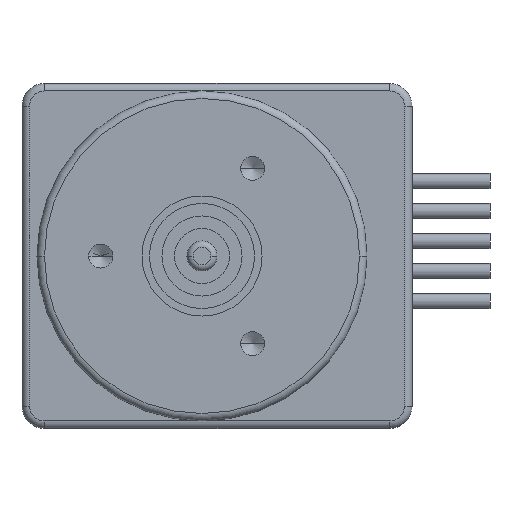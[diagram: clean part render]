
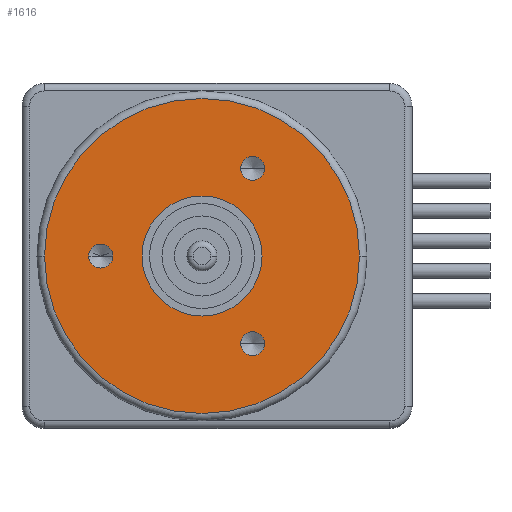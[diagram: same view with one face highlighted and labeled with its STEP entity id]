
A CAD part, left-side view. The second image highlights one B-rep face of the part: STEP entity #1616.
In plain terms, the highlighted planar face has unit normal (-1, 0, 0).
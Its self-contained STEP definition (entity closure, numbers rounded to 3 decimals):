
#87=CARTESIAN_POINT('',(-3.6,-3.375,5.846));
#88=DIRECTION('',(-1.,0.,0.));
#89=DIRECTION('',(0.,1.,0.));
#90=AXIS2_PLACEMENT_3D('',#87,#88,#89);
#92=CARTESIAN_POINT('',(-3.6,-3.375,5.846));
#93=DIRECTION('',(-1.,0.,0.));
#94=DIRECTION('',(0.,-1.,0.));
#95=AXIS2_PLACEMENT_3D('',#92,#93,#94);
#97=CARTESIAN_POINT('',(-3.6,-3.375,-5.846));
#98=DIRECTION('',(-1.,0.,0.));
#99=DIRECTION('',(0.,1.,0.));
#100=AXIS2_PLACEMENT_3D('',#97,#98,#99);
#102=CARTESIAN_POINT('',(-3.6,-3.375,-5.846));
#103=DIRECTION('',(-1.,0.,0.));
#104=DIRECTION('',(0.,-1.,0.));
#105=AXIS2_PLACEMENT_3D('',#102,#103,#104);
#107=CARTESIAN_POINT('',(-3.6,6.75,0.));
#108=DIRECTION('',(-1.,0.,0.));
#109=DIRECTION('',(0.,1.,0.));
#110=AXIS2_PLACEMENT_3D('',#107,#108,#109);
#112=CARTESIAN_POINT('',(-3.6,6.75,0.));
#113=DIRECTION('',(-1.,0.,0.));
#114=DIRECTION('',(0.,-1.,0.));
#115=AXIS2_PLACEMENT_3D('',#112,#113,#114);
#117=CARTESIAN_POINT('',(-3.6,0.,0.));
#118=DIRECTION('',(-1.,0.,0.));
#119=DIRECTION('',(0.,1.,0.));
#120=AXIS2_PLACEMENT_3D('',#117,#118,#119);
#122=CARTESIAN_POINT('',(-3.6,0.,0.));
#123=DIRECTION('',(-1.,0.,0.));
#124=DIRECTION('',(0.,-1.,0.));
#125=AXIS2_PLACEMENT_3D('',#122,#123,#124);
#127=CARTESIAN_POINT('',(-3.6,0.,0.));
#128=DIRECTION('',(1.,0.,0.));
#129=DIRECTION('',(0.,1.,0.));
#130=AXIS2_PLACEMENT_3D('',#127,#128,#129);
#140=CARTESIAN_POINT('',(-3.6,0.,0.));
#141=DIRECTION('',(-1.,0.,0.));
#142=DIRECTION('',(0.,1.,0.));
#143=AXIS2_PLACEMENT_3D('',#140,#141,#142);
#1223=CARTESIAN_POINT('',(-3.6,4.,0.));
#1225=VERTEX_POINT('',#1223);
#1239=CARTESIAN_POINT('',(-3.6,-4.,0.));
#1241=VERTEX_POINT('',#1239);
#1273=CARTESIAN_POINT('',(-3.6,-2.575,5.846));
#1274=CARTESIAN_POINT('',(-3.6,-4.175,5.846));
#1275=VERTEX_POINT('',#1273);
#1276=VERTEX_POINT('',#1274);
#1283=CARTESIAN_POINT('',(-3.6,-2.575,-5.846));
#1284=CARTESIAN_POINT('',(-3.6,-4.175,-5.846));
#1285=VERTEX_POINT('',#1283);
#1286=VERTEX_POINT('',#1284);
#1293=CARTESIAN_POINT('',(-3.6,7.55,0.));
#1294=CARTESIAN_POINT('',(-3.6,5.95,0.));
#1295=VERTEX_POINT('',#1293);
#1296=VERTEX_POINT('',#1294);
#1297=CARTESIAN_POINT('',(-3.6,10.5,0.));
#1298=CARTESIAN_POINT('',(-3.6,-10.5,0.));
#1299=VERTEX_POINT('',#1297);
#1300=VERTEX_POINT('',#1298);
#1582=CARTESIAN_POINT('',(-3.6,0.,0.));
#1583=DIRECTION('',(1.,0.,0.));
#1584=DIRECTION('',(0.,-1.,0.));
#1585=AXIS2_PLACEMENT_3D('',#1582,#1583,#1584);
#1586=PLANE('',#1585);
#1588=ORIENTED_EDGE('',*,*,#1587,.F.);
#1589=ORIENTED_EDGE('',*,*,#1572,.F.);
#1590=EDGE_LOOP('',(#1588,#1589));
#1591=FACE_OUTER_BOUND('',#1590,.F.);
#1593=ORIENTED_EDGE('',*,*,#1592,.T.);
#1595=ORIENTED_EDGE('',*,*,#1594,.T.);
#1596=EDGE_LOOP('',(#1593,#1595));
#1597=FACE_BOUND('',#1596,.F.);
#1599=ORIENTED_EDGE('',*,*,#1598,.T.);
#1601=ORIENTED_EDGE('',*,*,#1600,.T.);
#1602=EDGE_LOOP('',(#1599,#1601));
#1603=FACE_BOUND('',#1602,.F.);
#1605=ORIENTED_EDGE('',*,*,#1604,.T.);
#1607=ORIENTED_EDGE('',*,*,#1606,.T.);
#1608=EDGE_LOOP('',(#1605,#1607));
#1609=FACE_BOUND('',#1608,.F.);
#1611=ORIENTED_EDGE('',*,*,#1610,.F.);
#1613=ORIENTED_EDGE('',*,*,#1612,.T.);
#1614=EDGE_LOOP('',(#1611,#1613));
#1615=FACE_BOUND('',#1614,.F.);
#1616=ADVANCED_FACE('',(#1591,#1597,#1603,#1609,#1615),#1586,.F.);
#91=CIRCLE('',#90,0.8);
#96=CIRCLE('',#95,0.8);
#101=CIRCLE('',#100,0.8);
#106=CIRCLE('',#105,0.8);
#111=CIRCLE('',#110,0.8);
#116=CIRCLE('',#115,0.8);
#121=CIRCLE('',#120,10.5);
#126=CIRCLE('',#125,10.5);
#131=CIRCLE('',#130,4.);
#144=CIRCLE('',#143,4.);
#1572=EDGE_CURVE('',#1300,#1299,#126,.T.);
#1587=EDGE_CURVE('',#1299,#1300,#121,.T.);
#1592=EDGE_CURVE('',#1275,#1276,#91,.T.);
#1594=EDGE_CURVE('',#1276,#1275,#96,.T.);
#1598=EDGE_CURVE('',#1285,#1286,#101,.T.);
#1600=EDGE_CURVE('',#1286,#1285,#106,.T.);
#1604=EDGE_CURVE('',#1295,#1296,#111,.T.);
#1606=EDGE_CURVE('',#1296,#1295,#116,.T.);
#1610=EDGE_CURVE('',#1225,#1241,#131,.T.);
#1612=EDGE_CURVE('',#1225,#1241,#144,.T.);
